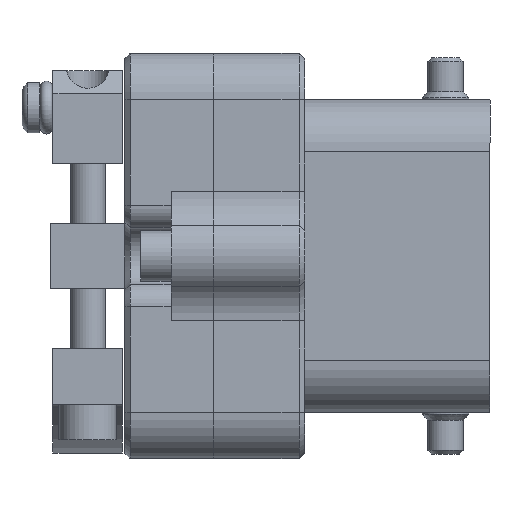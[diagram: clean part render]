
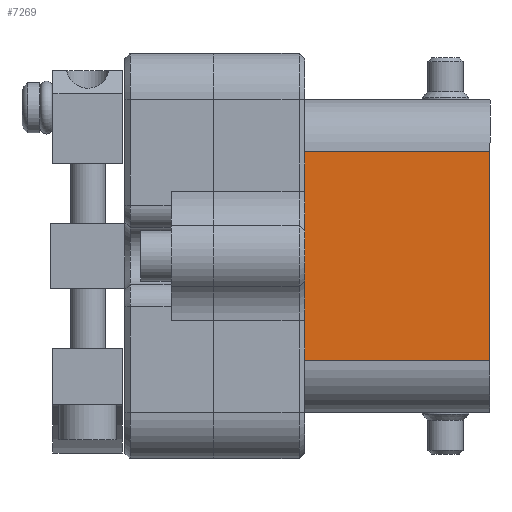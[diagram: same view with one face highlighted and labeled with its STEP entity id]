
A CAD part, left-side view. The second image highlights one B-rep face of the part: STEP entity #7269.
In plain terms, the highlighted planar face has unit normal (-1, 0, 0).
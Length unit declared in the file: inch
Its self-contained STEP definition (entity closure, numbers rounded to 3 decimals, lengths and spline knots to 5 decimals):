
#4480=CARTESIAN_POINT('',(-2.55489,-3.95783,0.61087));
#4481=VERTEX_POINT('',#4480);
#4489=CARTESIAN_POINT('',(-2.55489,-3.95783,-0.51663));
#4490=VERTEX_POINT('',#4489);
#4491=CARTESIAN_POINT('',(-2.55489,-3.95783,0.61087));
#4492=DIRECTION('',(0.0,0.0,-1.0));
#4493=VECTOR('',#4492,1.1275);
#4494=LINE('',#4491,#4493);
#4495=EDGE_CURVE('',#4481,#4490,#4494,.T.);
#5523=CARTESIAN_POINT('',(-2.55489,-2.95783,-0.51663));
#5524=VERTEX_POINT('',#5523);
#5525=CARTESIAN_POINT('',(-2.55489,-2.95783,0.61087));
#5526=VERTEX_POINT('',#5525);
#5527=CARTESIAN_POINT('',(-2.55489,-2.95783,-0.51663));
#5528=DIRECTION('',(0.0,0.0,1.0));
#5529=VECTOR('',#5528,1.1275);
#5530=LINE('',#5527,#5529);
#5531=EDGE_CURVE('',#5524,#5526,#5530,.T.);
#7237=CARTESIAN_POINT('',(-2.55489,-3.95783,-0.51663));
#7238=DIRECTION('',(0.0,1.0,0.0));
#7239=VECTOR('',#7238,1.0);
#7240=LINE('',#7237,#7239);
#7241=EDGE_CURVE('',#4490,#5524,#7240,.T.);
#7253=CARTESIAN_POINT('',(-2.55489,-3.95783,0.04712));
#7254=DIRECTION('',(-1.0,0.0,0.0));
#7255=DIRECTION('',(0.0,0.0,1.0));
#7256=AXIS2_PLACEMENT_3D('',#7253,#7254,#7255);
#7257=PLANE('',#7256);
#7258=ORIENTED_EDGE('',*,*,#7241,.F.);
#7259=ORIENTED_EDGE('',*,*,#4495,.F.);
#7260=CARTESIAN_POINT('',(-2.55489,-2.95783,0.61087));
#7261=DIRECTION('',(0.0,-1.0,0.0));
#7262=VECTOR('',#7261,1.0);
#7263=LINE('',#7260,#7262);
#7264=EDGE_CURVE('',#5526,#4481,#7263,.T.);
#7265=ORIENTED_EDGE('',*,*,#7264,.F.);
#7266=ORIENTED_EDGE('',*,*,#5531,.F.);
#7267=EDGE_LOOP('',(#7258,#7259,#7265,#7266));
#7268=FACE_OUTER_BOUND('',#7267,.T.);
#7269=ADVANCED_FACE('',(#7268),#7257,.T.);
